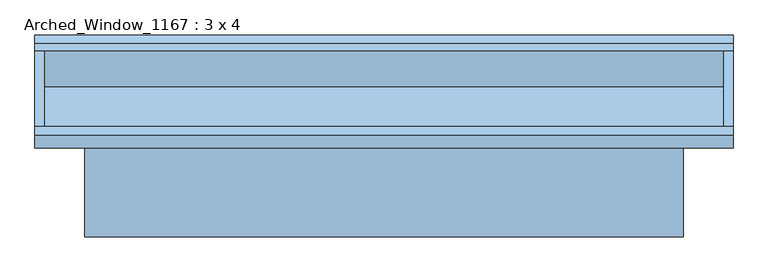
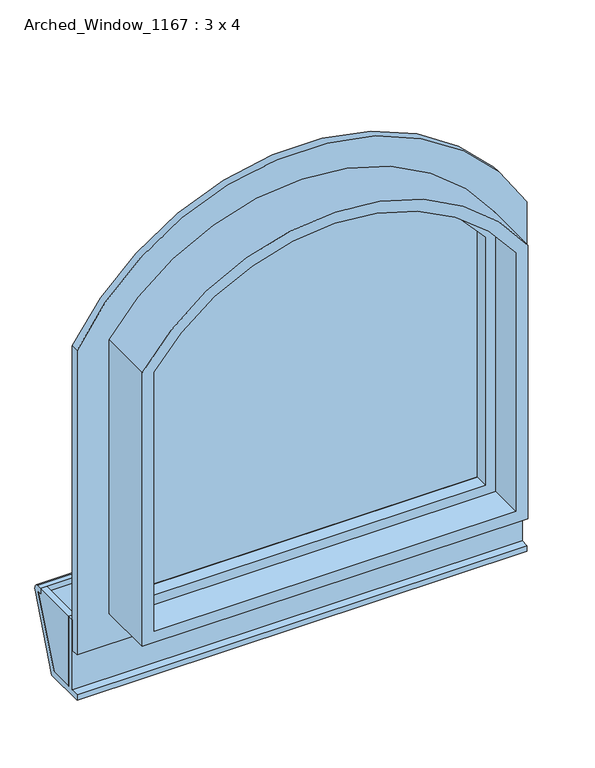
"""IFC4 building model written with IfcOpenShell, lengths in millimetres: window geometry, Arched_Window_1167 : 3 x 4."""

from ifc_helpers import new_model, si_unit, point, frame, frame_2d, origin, place, context, project, spatial, polyline, circle_curve, trimmed, segment, composite_curve, outline, extrude, source, transform, mapped, element, save
from ifc_brep_helpers import plane_surface, cylinder_surface, revolved_surface, advanced_brep


def arched_window_1167_3_x_4_14e1a2af(model_context):
    return source(origin(), model_context, "Body", "SolidModel", [
        extrude(outline(composite_curve([segment(trimmed(circle_curve(frame_2d((1437.596022, 0.0)), 811.6932871), [point((1828.8, 711.2))], [point((1828.8, -711.2))], False, "CARTESIAN"), True, "CONTINUOUS"), segment(polyline([(1828.8, -711.2), (812.8, -711.2), (812.8, 711.2), (1828.8, 711.2)]), True, "CONTINUOUS")], self_intersect=False), holes=[composite_curve([segment(polyline([(1828.8, 609.6), (914.4, 609.6), (914.4, -609.6), (1828.8, -609.6)]), True, "CONTINUOUS"), segment(trimmed(circle_curve(frame_2d((1416.05, 0.0)), 736.1893252), [point((1828.8, -609.6))], [point((1828.8, 609.6))], True, "CARTESIAN"), True, "CONTINUOUS")], self_intersect=False)]), frame((0.0, 90.4875, 0.0), z_axis=(0.0, 1.0, 0.0), x_axis=(0.0, 0.0, 1.0)), (0.0, 0.0, 1.0), 25.4),
        extrude(outline(composite_curve([segment(trimmed(circle_curve(frame_2d((1416.05, 0.0)), 670.2848029), [point((1999.3592465, 330.2))], [point((2025.3260926, 279.4))], False, "CARTESIAN"), True, "CONTINUOUS"), segment(polyline([(2025.3260926, 279.4), (1879.6, 279.4), (1879.6, 63.5), (2083.3201604, 63.5)]), True, "CONTINUOUS"), segment(trimmed(circle_curve(frame_2d((1416.05, 0.0)), 670.2848029), [point((2083.3201604, 63.5))], [point((2083.3201604, -63.5))], False, "CARTESIAN"), True, "CONTINUOUS"), segment(polyline([(2083.3201604, -63.5), (1879.6, -63.5), (1879.6, -279.4), (2025.3260926, -279.4)]), True, "CONTINUOUS"), segment(trimmed(circle_curve(frame_2d((1416.05, 0.0)), 670.2848029), [point((2025.3260926, -279.4))], [point((1999.3592465, -330.2))], False, "CARTESIAN"), True, "CONTINUOUS"), segment(polyline([(1999.3592465, -330.2), (1879.6, -330.2), (1879.6, -484.1519539)]), True, "CONTINUOUS"), segment(trimmed(circle_curve(frame_2d((1416.05, 0.0)), 670.2848029), [point((1879.6, -484.1519539))], [point((1813.4813205, -539.75))], False, "CARTESIAN"), True, "CONTINUOUS"), segment(polyline([(1813.4813205, -539.75), (1778.0, -539.75), (1778.0, -330.2), (1397.0, -330.2), (1397.0, -539.75), (1346.2, -539.75), (1346.2, -330.2), (984.25, -330.2), (984.25, -279.4), (1346.2, -279.4), (1346.2, -63.5), (984.25, -63.5), (984.25, 63.5), (1346.2, 63.5), (1346.2, 279.4), (984.25, 279.4), (984.25, 330.2), (1346.2, 330.2), (1346.2, 539.75), (1397.0, 539.75), (1397.0, 330.2), (1778.0, 330.2), (1778.0, 539.75), (1813.4813205, 539.75)]), True, "CONTINUOUS"), segment(trimmed(circle_curve(frame_2d((1416.05, 0.0)), 670.2848029), [point((1813.4813205, 539.75))], [point((1879.6, 484.1519539))], False, "CARTESIAN"), True, "CONTINUOUS"), segment(polyline([(1879.6, 484.1519539), (1879.6, 330.2), (1999.3592465, 330.2)]), True, "CONTINUOUS")], self_intersect=False), holes=[polyline([(1778.0, 279.4), (1397.0, 279.4), (1397.0, 63.5), (1778.0, 63.5), (1778.0, 279.4)]), polyline([(1778.0, -63.5), (1397.0, -63.5), (1397.0, -279.4), (1778.0, -279.4), (1778.0, -63.5)])]), frame((0.0, 77.7875, 0.0), z_axis=(0.0, 1.0, 0.0), x_axis=(0.0, 0.0, 1.0)), (0.0, 0.0, 1.0), 12.7),
        extrude(outline(composite_curve([segment(trimmed(circle_curve(frame_2d((1416.05, 0.0)), 670.2848029), [point((1813.4813205, 539.75))], [point((1813.4813205, -539.75))], False, "CARTESIAN"), True, "CONTINUOUS"), segment(polyline([(1813.4813205, -539.75), (984.25, -539.75), (984.25, 539.75), (1813.4813205, 539.75)]), True, "CONTINUOUS")], self_intersect=False)), frame((0.0, 65.0875, 0.0), z_axis=(0.0, 1.0, 0.0), x_axis=(0.0, 0.0, 1.0)), (0.0, 0.0, 1.0), 12.7),
        extrude(outline(composite_curve([segment(trimmed(circle_curve(frame_2d((1416.05, 0.0)), 717.1393252), [point((1822.9154682, 590.55))], [point((1822.9154682, -590.55))], False, "CARTESIAN"), True, "CONTINUOUS"), segment(polyline([(1822.9154682, -590.55), (933.45, -590.55), (933.45, 590.55), (1822.9154682, 590.55)]), True, "CONTINUOUS")], self_intersect=False), holes=[composite_curve([segment(polyline([(1813.4813205, 539.75), (984.25, 539.75), (984.25, -539.75), (1813.4813205, -539.75)]), True, "CONTINUOUS"), segment(trimmed(circle_curve(frame_2d((1416.05, 0.0)), 670.2848029), [point((1813.4813205, -539.75))], [point((1813.4813205, 539.75))], True, "CARTESIAN"), True, "CONTINUOUS")], self_intersect=False)]), frame((0.0, 19.05, 0.0), z_axis=(0.0, 1.0, 0.0), x_axis=(0.0, 0.0, 1.0)), (0.0, 0.0, 1.0), 44.45),
        advanced_brep(
        [(590.55, 33.3375, 1822.9154682), (590.55, 90.4875, 1822.9154682), (590.55, 90.4875, 933.45), (590.55, 33.3375, 933.45), (609.6, 90.4875, 914.4), (-609.6, 90.4875, 914.4), (-609.6, 90.4875, 1828.8), (609.6, 90.4875, 1828.8), (-590.55, 90.4875, 1822.9154682), (-590.55, 90.4875, 933.45), (-590.55, 33.3375, 933.45), (-590.55, 33.3375, 1822.9154682), (571.5, 33.3375, 1816.9445696), (-571.5, 33.3375, 1816.9445696), (-571.5, 33.3375, 952.5), (571.5, 33.3375, 952.5), (571.5, -90.4875, 1816.9445696), (571.5, -90.4875, 952.5), (-571.5, -90.4875, 952.5), (609.6, -90.4875, 1828.8), (-609.6, -90.4875, 1828.8), (-609.6, -90.4875, 914.4), (609.6, -90.4875, 914.4), (-571.5, -90.4875, 1816.9445696)],
        [
            (0, 1),
            (1, 2),
            (2, 3),
            (3, 0),
            (4, 5),
            (5, 6),
            (6, 7, circle_curve(frame((0.0, 90.4875, 1416.05), z_axis=(0.0, 1.0, 0.0), x_axis=(-0.8280478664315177, 0.0, 0.5606574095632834)), 736.1893252)),
            (7, 4),
            (1, 8, circle_curve(frame((0.0, 90.4875, 1416.05), z_axis=(0.0, -1.0, 0.0), x_axis=(-0.8280478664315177, 0.0, 0.5606574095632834)), 717.1393252)),
            (8, 9),
            (9, 2),
            (9, 10),
            (10, 3),
            (10, 11),
            (11, 0, circle_curve(frame((0.0, 33.3375, 1416.05), z_axis=(0.0, 1.0, 0.0), x_axis=(-0.8280478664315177, 0.0, 0.5606574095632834)), 717.1393252)),
            (12, 13, circle_curve(frame((0.0, 33.3375, 1416.05), z_axis=(0.0, -1.0, 0.0), x_axis=(-0.8280478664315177, 0.0, 0.5606574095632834)), 698.0893252)),
            (13, 14),
            (14, 15),
            (15, 12),
            (16, 12),
            (15, 17),
            (17, 16),
            (14, 18),
            (18, 17),
            (19, 20, circle_curve(frame((0.0, -90.4875, 1416.05), z_axis=(0.0, -1.0, 0.0), x_axis=(-0.8280478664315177, 0.0, 0.5606574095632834)), 736.1893252)),
            (20, 21),
            (21, 22),
            (22, 19),
            (18, 23),
            (23, 16, circle_curve(frame((0.0, -90.4875, 1416.05), z_axis=(0.0, 1.0, 0.0), x_axis=(-0.8280478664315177, 0.0, 0.5606574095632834)), 698.0893252)),
            (7, 19),
            (22, 4),
            (21, 5),
            (8, 11),
            (13, 23),
            (20, 6),
        ],
        [
            plane_surface(frame((590.55, 90.4875, 1822.9154682), z_axis=(-1.0, 0.0, 0.0), x_axis=(0.0, 0.0, -1.0))),
            plane_surface(frame((0.0, 90.4875, 1416.05), z_axis=(0.0, 1.0000000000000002, 0.0), x_axis=(-0.8280478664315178, 0.0, 0.5606574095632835))),
            plane_surface(frame((590.55, 90.4875, 933.45), z_axis=(0.0, 0.0, 1.0), x_axis=(-1.0, 0.0, 0.0))),
            plane_surface(frame((0.0, 33.3375, 1416.05), z_axis=(0.0, 1.0000000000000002, 0.0), x_axis=(-0.8280478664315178, 0.0, 0.5606574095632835))),
            plane_surface(frame((571.5, 33.3375, 1816.9445696), z_axis=(-1.0, 0.0, 0.0), x_axis=(0.0, 0.0, -1.0))),
            plane_surface(frame((571.5, 33.3375, 952.5), z_axis=(0.0, 0.0, 1.0), x_axis=(-1.0, 0.0, 0.0))),
            plane_surface(frame((0.0, -90.4875, 1416.05), z_axis=(0.0, -1.0000000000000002, 0.0), x_axis=(-0.8280478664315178, 0.0, 0.5606574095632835))),
            plane_surface(frame((609.6, -90.4875, 1828.8), z_axis=(1.0, 0.0, 0.0), x_axis=(0.0, 0.0, -1.0))),
            plane_surface(frame((609.6, -90.4875, 914.4), z_axis=(0.0, 0.0, -1.0), x_axis=(-1.0, 0.0, 0.0))),
            plane_surface(frame((-590.55, 90.4875, 933.45), z_axis=(1.0, 0.0, 0.0), x_axis=(0.0, 0.0, 1.0))),
            plane_surface(frame((-571.5, 33.3375, 952.5), z_axis=(1.0, 0.0, 0.0), x_axis=(0.0, 0.0, 1.0))),
            plane_surface(frame((-609.6, -90.4875, 914.4), z_axis=(-1.0, 0.0, 0.0), x_axis=(0.0, 0.0, 1.0))),
            revolved_surface(polyline([(-593.8256881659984, 90.4875, 1818.119476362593), (-593.8256881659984, 33.3375, 1818.119476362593)]), (0.0, 0.0, 1416.05), (0.0, 1.0, 0.0)),
            revolved_surface(polyline([(-578.051376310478, 33.3375, 1807.4389527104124), (-578.051376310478, -90.4875, 1807.4389527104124)]), (0.0, 0.0, 1416.05), (0.0, 1.0, 0.0)),
            cylinder_surface(frame((0.0, 0.0, 1416.05), z_axis=(0.0, 1.0, 0.0), x_axis=(-0.8280478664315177, 0.0, 0.5606574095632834)), 736.1893252),
        ],
        [
            (0, [[1, 2, 3, 4]]),
            (1, [[5, 6, 7, 8], [9, 10, 11, -2]]),
            (2, [[-3, -11, 12, 13]]),
            (3, [[-13, 14, 15, -4], [16, 17, 18, 19]]),
            (4, [[20, -19, 21, 22]]),
            (5, [[-21, -18, 23, 24]]),
            (6, [[25, 26, 27, 28], [-24, 29, 30, -22]]),
            (7, [[31, -28, 32, -8]]),
            (8, [[-32, -27, 33, -5]]),
            (9, [[-12, -10, 34, -14]]),
            (10, [[-23, -17, 35, -29]]),
            (11, [[-33, -26, 36, -6]]),
            (12, [[-15, -34, -9, -1]]),
            (13, [[-30, -35, -16, -20]]),
            (14, [[-7, -36, -25, -31]]),
        ],
    ),
        extrude(outline(composite_curve([segment(polyline([(115.8875, 679.45), (115.8875, 914.4), (134.9375, 914.4), (134.9375, 679.45), (215.7025221, 679.45), (302.0625221, 895.35), (289.3625221, 895.35), (289.1833553, 914.4), (304.8, 914.4)]), True, "CONTINUOUS"), segment(trimmed(circle_curve(frame_2d((302.8486215, 895.947614)), 18.5552803), [point((304.8, 914.4))], [point((320.324463, 889.7111574))], False, "CARTESIAN"), True, "CONTINUOUS"), segment(polyline([(320.324463, 889.7111574), (228.6, 660.4), (90.4875, 660.4), (90.4875, 679.45), (115.8875, 679.45)]), True, "CONTINUOUS")], self_intersect=False)), frame((-711.2, 0.0, 0.0), z_axis=(1.0, 0.0, 0.0), x_axis=(0.0, 1.0, 0.0)), (0.0, 0.0, 1.0), 1422.4),
        extrude(outline(polyline([(289.3625221, 895.35), (302.0625221, 895.35), (215.7025221, 679.45), (134.9375, 679.45), (134.9375, 914.4), (289.1833553, 914.4), (289.3625221, 895.35)])), frame((-711.2, 0.0, 0.0), z_axis=(1.0, 0.0, 0.0), x_axis=(0.0, 1.0, 0.0)), (0.0, 0.0, 1.0), 19.05),
        extrude(outline(polyline([(134.9375, 914.4), (289.1833553, 914.4), (289.3625221, 895.35), (302.0625221, 895.35), (215.7025221, 679.45), (134.9375, 679.45), (134.9375, 914.4)])), frame((692.15, 0.0, 0.0), z_axis=(1.0, 0.0, 0.0), x_axis=(0.0, 1.0, 0.0)), (0.0, 0.0, 1.0), 19.05),
    ])


if __name__ == "__main__":
    model = new_model("IFC4")
    model_context = context("Model", 3, world=origin())
    ifc_project = project(units=[si_unit("LENGTHUNIT", "METRE", prefix="MILLI")], contexts=[model_context])
    site = spatial("IfcSite", under=ifc_project)
    building = spatial("IfcBuilding", under=site)
    placement = place(None, origin())
    arched_window_1167_3_x_4_shape = arched_window_1167_3_x_4_14e1a2af(model_context)
    element("IfcWindow", 1, ObjectType="Arched_Window_1167 : 3 x 4", at=placement, inside=building, context=model_context, shape_type="MappedRepresentation", body=[
        mapped(arched_window_1167_3_x_4_shape, transform((0.0, 0.0, 0.0), x_axis=(1.0, 0.0, 0.0), y_axis=(0.0, 1.0, 0.0), z_axis=(0.0, 0.0, 1.0))),
    ])
    save(model, "model.ifc")
